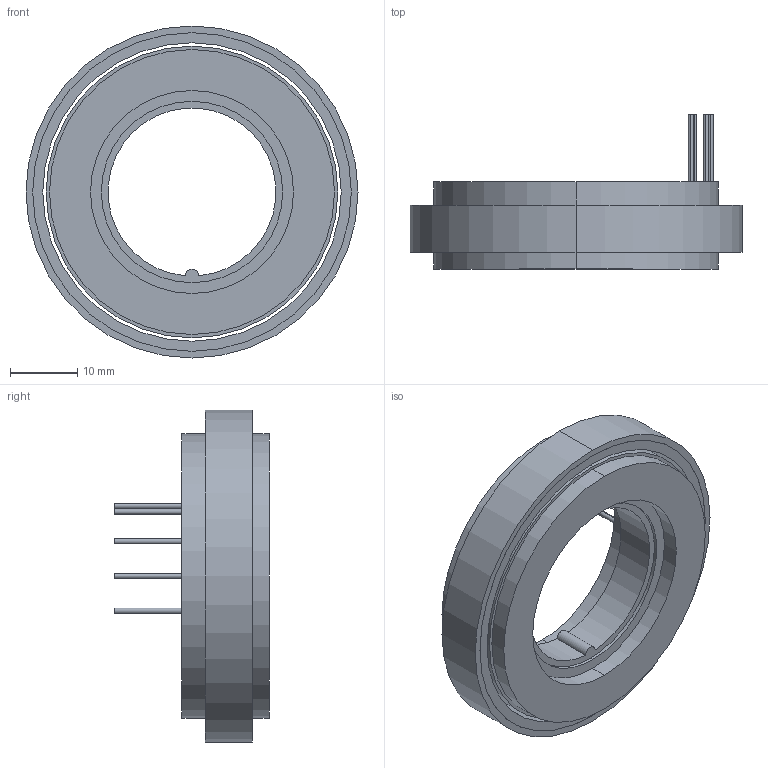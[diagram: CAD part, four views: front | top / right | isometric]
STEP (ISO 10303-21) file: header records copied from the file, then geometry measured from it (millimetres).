
FILE_DESCRIPTION (( 'STEP AP214' ), '1' );
FILE_NAME ('UE4913µç»ú.STEP', '2026-03-11T05:58:04', ( 'Windows User' ), ( 'P R C' ), 'SwSTEP 2.0', 'SolidWorks 2023', '' );
FILE_SCHEMA (( 'AUTOMOTIVE_DESIGN' ));
Length unit declared in the file: millimetre
Products named in the file (1): UE4913电机
Bounding box: 49.4 x 23 x 49.4 mm (x, y, z)
Volume: 13620 mm3; surface area: 7790.7 mm2
Topology: 2 solids, 2 shells, 51 faces, 102 edges, 68 vertices
Faces by surface type: cylinder 34, plane 17
Entity records: 1404 total; most frequent: DIRECTION 274, CARTESIAN_POINT 222, ORIENTED_EDGE 204, AXIS2_PLACEMENT_3D 120, EDGE_CURVE 102, EDGE_LOOP 68, CIRCLE 68, VERTEX_POINT 68
